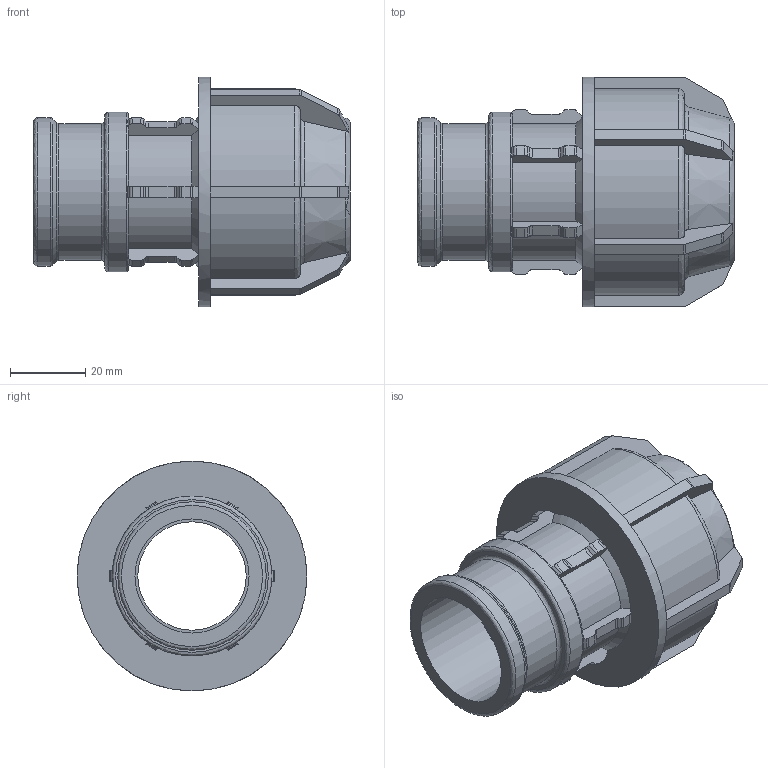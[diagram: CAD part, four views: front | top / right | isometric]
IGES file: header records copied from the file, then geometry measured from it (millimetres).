
Global section: file name: 140300032010.ipt; native system: Autodesk Inventor 2015; preprocessor: unknown; author: KIM; date: 20180409.131009; units: millimetre
Bounding box: 84 x 61 x 61 mm (x, y, z)
Volume: 70822 mm3; surface area: 27019.4 mm2
Topology: 1 solids, 1 shells, 260 faces, 737 edges, 476 vertices
Faces by surface type: plane 159, cylinder 52, revolution 36, cone 13
Full cylindrical faces by diameter (mm): 36.349 x1, 39.378 x1, 42.407 x1, 61 x1
